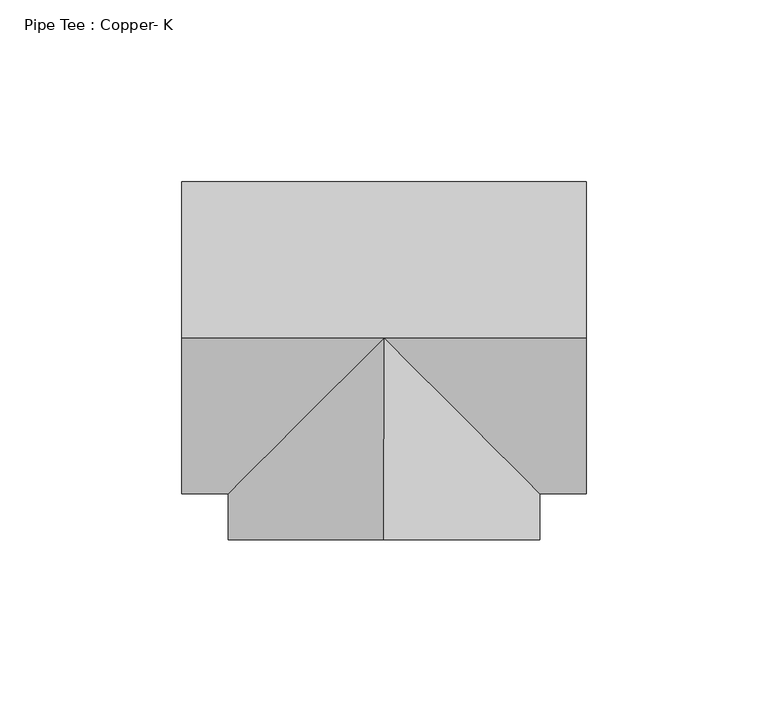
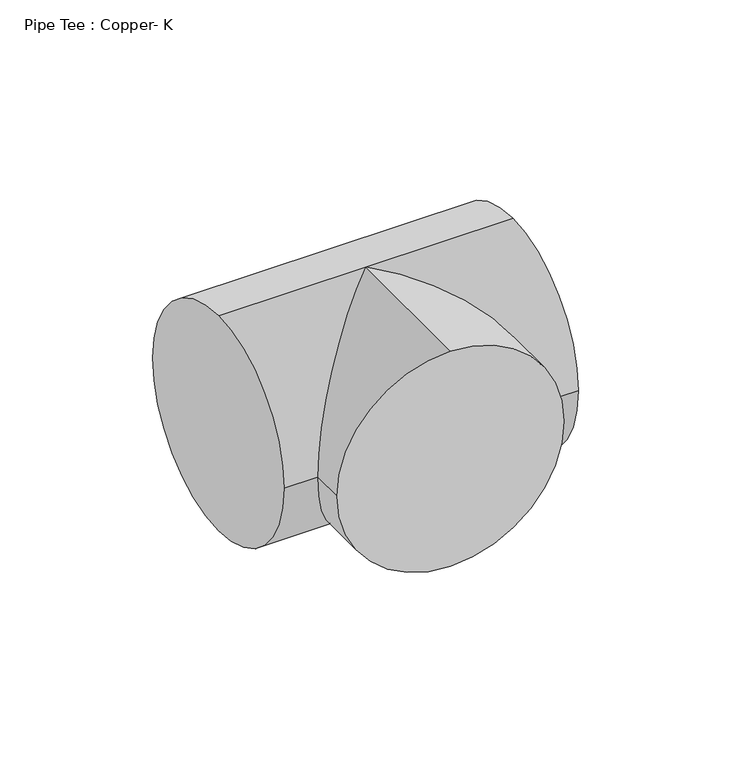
"""IFC4 building model written with IfcOpenShell, lengths in millimetres: pipe fitting geometry, Pipe Tee : Copper- K."""

import ifcopenshell
import ifcopenshell.guid

model = None  # the IFC model being written
_history = None  # IfcOwnerHistory: only IFC2X3 demands one
_inside = {}  # id of a spatial element -> (the spatial element, [elements in it])
_under = {}  # id of a project, library or spatial element -> (it, [spatial elements below it])
_declared = {}  # id of a project -> (the project, [libraries it declares])
_typed = {}  # id of a type object -> (the type object, [elements of that type])
_made_of = {}  # id of a material, layer set ... -> (it, [elements and type objects made of it])


def new_model(schema):
    """Start an empty IFC model of exactly this schema.

    Asked for "IFC4X3", IfcOpenShell would pick the latest addendum, in which some entities
    have other attributes; the version numbers below select the first issue.
    IFC2X3 requires an IfcOwnerHistory on every rooted entity: one is made here for all.
    """
    global model, _history
    if schema == "IFC4X3":
        model = ifcopenshell.file(schema_version=(4, 3, 0, 0))
    else:
        model = ifcopenshell.file(schema=schema)
    _inside.clear()
    _under.clear()
    _declared.clear()
    _typed.clear()
    _made_of.clear()
    _history = None
    if model.schema == "IFC2X3":
        org = make("IfcOrganization", Name="unknown")
        user = make(
            "IfcPersonAndOrganization",
            ThePerson=make("IfcPerson", FamilyName="unknown"),
            TheOrganization=org,
        )
        app = make(
            "IfcApplication",
            ApplicationDeveloper=org,
            Version="unknown",
            ApplicationFullName="unknown",
            ApplicationIdentifier="unknown",
        )
        _history = make(
            "IfcOwnerHistory",
            OwningUser=user,
            OwningApplication=app,
            ChangeAction="ADDED",
            CreationDate=0,
        )
    return model


def make(cls, **values):
    """One entity of the class cls with the attributes given. An attribute that is None is left unset."""
    return model.create_entity(
        cls, **{name: value for name, value in values.items() if value is not None}
    )


def rooted(cls, **values):
    """An entity with a GlobalId (a new one), such as an element, a storey or a relation."""
    return make(cls, GlobalId=ifcopenshell.guid.new(), OwnerHistory=_history, **values)


def si_unit(unit_type, name, prefix=None):
    """IfcSIUnit, for example si_unit("LENGTHUNIT", "METRE", prefix="MILLI")."""
    return make("IfcSIUnit", UnitType=unit_type, Prefix=prefix, Name=name)


def assignment(units):
    """IfcUnitAssignment: the units of a project."""
    return None if units is None else make("IfcUnitAssignment", Units=units)


def point(xyz):
    """IfcCartesianPoint."""
    return None if xyz is None else make("IfcCartesianPoint", Coordinates=xyz)


def direction(xyz):
    """IfcDirection."""
    return None if xyz is None else make("IfcDirection", DirectionRatios=xyz)


def frame(location, z_axis=None, x_axis=None):
    """IfcAxis2Placement3D, a coordinate frame: its origin and axes. An axis left out is left unset."""
    return make(
        "IfcAxis2Placement3D",
        Location=point(location),
        Axis=direction(z_axis),
        RefDirection=direction(x_axis),
    )


def origin():
    """The frame at (0, 0, 0) with its axes left unset."""
    return frame((0.0, 0.0, 0.0))


def place(relative_to, where):
    """IfcLocalPlacement: puts the frame where relative to a parent placement (None: the world)."""
    return make(
        "IfcLocalPlacement", PlacementRelTo=relative_to, RelativePlacement=where
    )


def context(
    kind, dimensions, precision=None, world=None, true_north=None, identifier=None
):
    """IfcGeometricRepresentationContext, for example the 3D "Model" context."""
    return make(
        "IfcGeometricRepresentationContext",
        ContextIdentifier=identifier,
        ContextType=kind,
        CoordinateSpaceDimension=dimensions,
        Precision=precision,
        WorldCoordinateSystem=world,
        TrueNorth=true_north,
    )


def project(units=None, contexts=None):
    """IfcProject with its units and contexts."""
    return rooted(
        "IfcProject",
        Name="project",
        RepresentationContexts=contexts,
        UnitsInContext=assignment(units),
    )


def spatial(cls, under=None, at=None, **own):
    """A site, building, storey or space (cls), placed at a placement, below another one or the project."""
    s = rooted(cls, ObjectPlacement=at, **own)
    if under is not None:
        _under.setdefault(under.id(), (under, []))[1].append(s)
    return s


def circle_curve(where, radius):
    """IfcCircle in the frame where."""
    return make("IfcCircle", Position=where, Radius=radius)


def ellipse_curve(where, semi_axis1, semi_axis2):
    """IfcEllipse in the frame where."""
    return make(
        "IfcEllipse", Position=where, SemiAxis1=semi_axis1, SemiAxis2=semi_axis2
    )


def shape(context_of_items, identifier, shape_type, items):
    """IfcShapeRepresentation: the items that make up one representation, for example the "Body"."""
    return make(
        "IfcShapeRepresentation",
        ContextOfItems=context_of_items,
        RepresentationIdentifier=identifier,
        RepresentationType=shape_type,
        Items=items,
    )


def source(mapping_origin, context_of_items, identifier, shape_type, items):
    """IfcRepresentationMap: a shape defined once, which mapped items show again and again."""
    return make(
        "IfcRepresentationMap",
        MappingOrigin=mapping_origin,
        MappedRepresentation=shape(context_of_items, identifier, shape_type, items),
    )


def transform(
    local_origin,
    x_axis=None,
    y_axis=None,
    z_axis=None,
    scale=None,
    scale2=None,
    scale3=None,
    uniform=True,
):
    """IfcCartesianTransformationOperator3D, or its non-uniform kind. x_axis, y_axis, z_axis: its Axis1, 2, 3."""
    if uniform:
        return make(
            "IfcCartesianTransformationOperator3D",
            Axis1=direction(x_axis),
            Axis2=direction(y_axis),
            LocalOrigin=point(local_origin),
            Scale=scale,
            Axis3=direction(z_axis),
        )
    return make(
        "IfcCartesianTransformationOperator3DnonUniform",
        Axis1=direction(x_axis),
        Axis2=direction(y_axis),
        LocalOrigin=point(local_origin),
        Scale=scale,
        Axis3=direction(z_axis),
        Scale2=scale2,
        Scale3=scale3,
    )


def mapped(mapping_source, mapping_target):
    """IfcMappedItem: shows the shape of a source again, moved by a transform."""
    return make(
        "IfcMappedItem", MappingSource=mapping_source, MappingTarget=mapping_target
    )


def made_of(thing, what):
    """Note that an element or type object is made of a material, layer set ...; save() writes the relation."""
    if what is not None:
        _made_of.setdefault(what.id(), (what, []))[1].append(thing)
    return thing


def element(
    cls,
    number,
    at=None,
    inside=None,
    cuts=None,
    type_object=None,
    material=None,
    context=None,
    identifier="Body",
    shape_type=None,
    held_by="IfcProductDefinitionShape",
    body=None,
    shapes=None,
    **own,
):
    """One element of the class cls, such as IfcWall. Its Tag is "e" and its number.

    at: its placement. inside: the storey or other place that contains it. cuts: it is an
    opening in that element (IfcRelVoidsElement). A single representation is given by context,
    identifier, shape_type and body (its items); several are given by shapes. held_by: the class
    of the entity that holds the representations. save() writes the other relations.
    """
    e = rooted(cls, Tag="e%d" % number, ObjectPlacement=at, **own)
    if body is not None:
        shapes = [shape(context, identifier, shape_type, body)]
    if shapes is not None:
        e.Representation = make(held_by, Representations=shapes)
    if inside is not None:
        _inside.setdefault(inside.id(), (inside, []))[1].append(e)
    if cuts is not None:
        rooted(
            "IfcRelVoidsElement", RelatingBuildingElement=cuts, RelatedOpeningElement=e
        )
    if type_object is not None:
        _typed.setdefault(type_object.id(), (type_object, []))[1].append(e)
    return made_of(e, material)


def aggregate(whole, parts):
    """IfcRelAggregates: a whole, such as a stair, and the parts it consists of."""
    return rooted("IfcRelAggregates", RelatingObject=whole, RelatedObjects=parts)


def save(model, path):
    """Write the relations noted so far, then the file.

    IfcRelAggregates (storeys below a building ...), IfcRelContainedInSpatialStructure (elements
    in a storey), IfcRelDefinesByType, IfcRelAssociatesMaterial and IfcRelDeclares: one each for
    every whole, place, type object, material and project.
    """
    for whole, parts in _under.values():
        aggregate(whole, parts)
    for where, things in _inside.values():
        rooted(
            "IfcRelContainedInSpatialStructure",
            RelatedElements=things,
            RelatingStructure=where,
        )
    for kind, things in _typed.values():
        rooted("IfcRelDefinesByType", RelatedObjects=things, RelatingType=kind)
    for what, things in _made_of.values():
        rooted("IfcRelAssociatesMaterial", RelatedObjects=things, RelatingMaterial=what)
    for by, libraries in _declared.values():
        rooted("IfcRelDeclares", RelatingContext=by, RelatedDefinitions=libraries)
    model.write(path)


def plane_surface(at):
    """IfcPlane: the flat surface through the origin of the frame at, square to its z axis."""
    return make("IfcPlane", Position=at)


def cylinder_surface(at, radius):
    """IfcCylindricalSurface: all points at the distance radius from the z axis of the frame at."""
    return make("IfcCylindricalSurface", Position=at, Radius=radius)


def advanced_brep(points, edges, surfaces, faces):
    """IfcAdvancedBrep: a solid bounded by faces that lie on surfaces and meet in shared edges.

    An edge is (start, end): straight between two places in points (the first is 0);
    or (start, end, curve); or (start, end, curve, False) where it runs against its curve.
    A face is (place in surfaces, loops), or (place, loops, False) where it looks against
    its surface's normal. A loop lists edges by number (the first is 1), with a minus sign
    where the edge is run from its end to its start. The first loop is the outer one.
    """
    corners = [point(p) for p in points]
    vertices = [make("IfcVertexPoint", VertexGeometry=c) for c in corners]
    made = []
    for start, end, *more in edges:
        made.append(
            make(
                "IfcEdgeCurve",
                EdgeStart=vertices[start],
                EdgeEnd=vertices[end],
                EdgeGeometry=more[0] if more else make("IfcPolyline", Points=[corners[start], corners[end]]),
                SameSense=more[1] if len(more) > 1 else True,
            )
        )
    hull = []
    for where, loops, *sense in faces:
        bounds = []
        for j, loop in enumerate(loops):
            ring = [make("IfcOrientedEdge", EdgeElement=made[abs(k) - 1], Orientation=k > 0) for k in loop]
            bounds.append(
                make(
                    "IfcFaceOuterBound" if j == 0 else "IfcFaceBound",
                    Bound=make("IfcEdgeLoop", EdgeList=ring),
                    Orientation=True,
                )
            )
        hull.append(make("IfcAdvancedFace", Bounds=bounds, FaceSurface=surfaces[where], SameSense=sense[0] if sense else True))
    return make("IfcAdvancedBrep", Outer=make("IfcClosedShell", CfsFaces=hull))


def pipe_tee_copper_k_9e82dede(model_context):
    return source(origin(), model_context, "Body", "AdvancedBrep", [
        advanced_brep(
        [(-55.5625, 0.0, 42.8625), (-55.5625, 42.8625, 0.0), (-55.5625, 0.0, -42.8625), (-55.5625, -42.8625, 0.0), (55.5625, 0.0, 42.8625), (55.5625, -42.8625, 0.0), (55.5625, 0.0, -42.8625), (55.5625, 42.8625, 0.0), (0.0, 0.0, 42.8625), (0.0, 0.0, -42.8625), (-42.8625113, -42.8625, 0.0), (42.8624887, -42.8625, 0.0), (-1.46e-05, -55.5625, 42.8625), (-42.8625146, -55.5624887, 0.0), (-1.46e-05, -55.5625, -42.8625), (42.8624854, -55.5625113, 0.0)],
        [
            (0, 1, circle_curve(frame((-55.5625, 0.0, 0.0), z_axis=(-1.0, 0.0, 0.0), x_axis=(0.0, 1.0, 0.0)), 42.8625)),
            (1, 2, circle_curve(frame((-55.5625, 0.0, 0.0), z_axis=(-1.0, 0.0, 0.0), x_axis=(0.0, 1.0, 0.0)), 42.8625)),
            (2, 3, circle_curve(frame((-55.5625, 0.0, 0.0), z_axis=(-1.0, 0.0, 0.0), x_axis=(0.0, 1.0, 0.0)), 42.8625)),
            (3, 0, circle_curve(frame((-55.5625, 0.0, 0.0), z_axis=(-1.0, 0.0, 0.0), x_axis=(0.0, 1.0, 0.0)), 42.8625)),
            (4, 5, circle_curve(frame((55.5625, 0.0, 0.0), z_axis=(1.0, 0.0, 0.0), x_axis=(0.0, 1.0, 0.0)), 42.8625)),
            (5, 6, circle_curve(frame((55.5625, 0.0, 0.0), z_axis=(1.0, 0.0, 0.0), x_axis=(0.0, 1.0, 0.0)), 42.8625)),
            (6, 7, circle_curve(frame((55.5625, 0.0, 0.0), z_axis=(1.0, 0.0, 0.0), x_axis=(0.0, 1.0, 0.0)), 42.8625)),
            (7, 4, circle_curve(frame((55.5625, 0.0, 0.0), z_axis=(1.0, 0.0, 0.0), x_axis=(0.0, 1.0, 0.0)), 42.8625)),
            (0, 8),
            (8, 4),
            (7, 1),
            (6, 9),
            (9, 2),
            (9, 10, ellipse_curve(frame((0.0, 0.0, 0.0), z_axis=(-0.7071066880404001, 0.7071068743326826, 0.0), x_axis=(-0.7071068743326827, -0.7071066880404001, 0.0)), 60.6167368, 42.8625)),
            (10, 3),
            (5, 11),
            (11, 9, ellipse_curve(frame((0.0, 0.0, 0.0), z_axis=(0.7071068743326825, 0.7071066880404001, 0.0), x_axis=(-0.7071066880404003, 0.7071068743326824, 0.0)), 60.6167208, 42.8625)),
            (10, 8, ellipse_curve(frame((0.0, 0.0, 0.0), z_axis=(-0.7071066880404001, 0.7071068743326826, 0.0), x_axis=(-0.7071068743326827, -0.7071066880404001, 0.0)), 60.6167368, 42.8625)),
            (8, 11, ellipse_curve(frame((0.0, 0.0, 0.0), z_axis=(0.7071068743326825, 0.7071066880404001, 0.0), x_axis=(-0.7071066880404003, 0.7071068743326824, 0.0)), 60.6167208, 42.8625)),
            (12, 13, circle_curve(frame((-1.46e-05, -55.5625, 0.0), z_axis=(-2.634570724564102e-07, -0.9999999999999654, 0.0), x_axis=(0.9999999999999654, -2.634570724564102e-07, 0.0)), 42.8625)),
            (13, 14, circle_curve(frame((-1.46e-05, -55.5625, 0.0), z_axis=(-2.634570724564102e-07, -0.9999999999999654, 0.0), x_axis=(0.9999999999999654, -2.634570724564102e-07, 0.0)), 42.8625)),
            (14, 15, circle_curve(frame((-1.46e-05, -55.5625, 0.0), z_axis=(-2.634570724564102e-07, -0.9999999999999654, 0.0), x_axis=(0.9999999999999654, -2.634570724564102e-07, 0.0)), 42.8625)),
            (15, 12, circle_curve(frame((-1.46e-05, -55.5625, 0.0), z_axis=(-2.634570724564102e-07, -0.9999999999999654, 0.0), x_axis=(0.9999999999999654, -2.634570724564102e-07, 0.0)), 42.8625)),
            (15, 11),
            (8, 12),
            (14, 9),
            (13, 10),
        ],
        [
            plane_surface(frame((-55.5625, 0.0, 0.0), z_axis=(-1.0, 0.0, 0.0), x_axis=(0.0, 0.0, 1.0))),
            plane_surface(frame((55.5625, 0.0, 0.0), z_axis=(1.0, 0.0, 0.0), x_axis=(0.0, 0.0, 1.0))),
            cylinder_surface(frame((-55.5625, 0.0, 0.0), z_axis=(-1.0, 0.0, 0.0), x_axis=(0.0, 1.0, 0.0)), 42.8625),
            plane_surface(frame((-1.46e-05, -55.5625, 0.0), z_axis=(-2.634570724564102e-07, -0.9999999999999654, 0.0), x_axis=(0.0, 0.0, 1.0))),
            cylinder_surface(frame((0.0, 0.0, 0.0), z_axis=(2.634570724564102e-07, 0.9999999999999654, 0.0), x_axis=(0.9999999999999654, -2.634570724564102e-07, 0.0)), 42.8625),
        ],
        [
            (0, [[1, 2, 3, 4]]),
            (1, [[5, 6, 7, 8]]),
            (2, [[-1, 9, 10, -8, 11]]),
            (2, [[-2, -11, -7, 12, 13]]),
            (2, [[-3, -13, 14, 15]]),
            (2, [[-6, 16, 17, -12]]),
            (2, [[-4, -15, 18, -9]]),
            (2, [[-5, -10, 19, -16]]),
            (3, [[20, 21, 22, 23]]),
            (4, [[-23, 24, -19, 25]]),
            (4, [[-22, 26, -17, -24]]),
            (4, [[-21, 27, -14, -26]]),
            (4, [[-20, -25, -18, -27]]),
        ],
    ),
        advanced_brep(
        [(-55.5625, 0.0, 42.8625), (-55.5625, 42.8625, 0.0), (-55.5625, 0.0, -42.8625), (-55.5625, -42.8625, 0.0), (55.5625, 0.0, 42.8625), (55.5625, -42.8625, 0.0), (55.5625, 0.0, -42.8625), (55.5625, 42.8625, 0.0), (0.0, 0.0, 42.8625), (0.0, 0.0, -42.8625), (-42.8625113, -42.8625, 0.0), (42.8624887, -42.8625, 0.0), (-1.46e-05, -55.5625, 42.8625), (-42.8625146, -55.5624887, 0.0), (-1.46e-05, -55.5625, -42.8625), (42.8624854, -55.5625113, 0.0)],
        [
            (0, 1, circle_curve(frame((-55.5625, 0.0, 0.0), z_axis=(-1.0, 0.0, 0.0), x_axis=(0.0, 1.0, 0.0)), 42.8625)),
            (1, 2, circle_curve(frame((-55.5625, 0.0, 0.0), z_axis=(-1.0, 0.0, 0.0), x_axis=(0.0, 1.0, 0.0)), 42.8625)),
            (2, 3, circle_curve(frame((-55.5625, 0.0, 0.0), z_axis=(-1.0, 0.0, 0.0), x_axis=(0.0, 1.0, 0.0)), 42.8625)),
            (3, 0, circle_curve(frame((-55.5625, 0.0, 0.0), z_axis=(-1.0, 0.0, 0.0), x_axis=(0.0, 1.0, 0.0)), 42.8625)),
            (4, 5, circle_curve(frame((55.5625, 0.0, 0.0), z_axis=(1.0, 0.0, 0.0), x_axis=(0.0, 1.0, 0.0)), 42.8625)),
            (5, 6, circle_curve(frame((55.5625, 0.0, 0.0), z_axis=(1.0, 0.0, 0.0), x_axis=(0.0, 1.0, 0.0)), 42.8625)),
            (6, 7, circle_curve(frame((55.5625, 0.0, 0.0), z_axis=(1.0, 0.0, 0.0), x_axis=(0.0, 1.0, 0.0)), 42.8625)),
            (7, 4, circle_curve(frame((55.5625, 0.0, 0.0), z_axis=(1.0, 0.0, 0.0), x_axis=(0.0, 1.0, 0.0)), 42.8625)),
            (0, 8),
            (8, 4),
            (7, 1),
            (6, 9),
            (9, 2),
            (9, 10, ellipse_curve(frame((0.0, 0.0, 0.0), z_axis=(-0.7071066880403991, 0.7071068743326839, 0.0), x_axis=(-0.7071068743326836, -0.7071066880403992, 0.0)), 60.6167368, 42.8625)),
            (10, 3),
            (5, 11),
            (11, 9, ellipse_curve(frame((0.0, 0.0, 0.0), z_axis=(0.7071068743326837, 0.7071066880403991, 0.0), x_axis=(-0.707106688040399, 0.7071068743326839, 0.0)), 60.6167208, 42.8625)),
            (10, 8, ellipse_curve(frame((0.0, 0.0, 0.0), z_axis=(-0.7071066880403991, 0.7071068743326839, 0.0), x_axis=(-0.7071068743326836, -0.7071066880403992, 0.0)), 60.6167368, 42.8625)),
            (8, 11, ellipse_curve(frame((0.0, 0.0, 0.0), z_axis=(0.7071068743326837, 0.7071066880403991, 0.0), x_axis=(-0.707106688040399, 0.7071068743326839, 0.0)), 60.6167208, 42.8625)),
            (12, 13, circle_curve(frame((-1.46e-05, -55.5625, 0.0), z_axis=(-2.634570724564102e-07, -0.9999999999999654, 0.0), x_axis=(0.9999999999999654, -2.634570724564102e-07, 0.0)), 42.8625)),
            (13, 14, circle_curve(frame((-1.46e-05, -55.5625, 0.0), z_axis=(-2.634570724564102e-07, -0.9999999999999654, 0.0), x_axis=(0.9999999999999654, -2.634570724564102e-07, 0.0)), 42.8625)),
            (14, 15, circle_curve(frame((-1.46e-05, -55.5625, 0.0), z_axis=(-2.634570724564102e-07, -0.9999999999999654, 0.0), x_axis=(0.9999999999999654, -2.634570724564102e-07, 0.0)), 42.8625)),
            (15, 12, circle_curve(frame((-1.46e-05, -55.5625, 0.0), z_axis=(-2.634570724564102e-07, -0.9999999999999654, 0.0), x_axis=(0.9999999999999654, -2.634570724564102e-07, 0.0)), 42.8625)),
            (15, 11),
            (8, 12),
            (14, 9),
            (13, 10),
        ],
        [
            plane_surface(frame((-55.5625, 0.0, 0.0), z_axis=(-1.0, 0.0, 0.0), x_axis=(0.0, 0.0, 1.0))),
            plane_surface(frame((55.5625, 0.0, 0.0), z_axis=(1.0, 0.0, 0.0), x_axis=(0.0, 0.0, 1.0))),
            cylinder_surface(frame((-55.5625, 0.0, 0.0), z_axis=(-1.0, 0.0, 0.0), x_axis=(0.0, 1.0, 0.0)), 42.8625),
            plane_surface(frame((-1.46e-05, -55.5625, 0.0), z_axis=(-2.634570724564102e-07, -0.9999999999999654, 0.0), x_axis=(0.0, 0.0, 1.0))),
            cylinder_surface(frame((0.0, 0.0, 0.0), z_axis=(2.634570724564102e-07, 0.9999999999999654, 0.0), x_axis=(0.9999999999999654, -2.634570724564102e-07, 0.0)), 42.8625),
        ],
        [
            (0, [[1, 2, 3, 4]]),
            (1, [[5, 6, 7, 8]]),
            (2, [[-1, 9, 10, -8, 11]]),
            (2, [[-2, -11, -7, 12, 13]]),
            (2, [[-3, -13, 14, 15]]),
            (2, [[-6, 16, 17, -12]]),
            (2, [[-4, -15, 18, -9]]),
            (2, [[-5, -10, 19, -16]]),
            (3, [[20, 21, 22, 23]]),
            (4, [[-23, 24, -19, 25]]),
            (4, [[-22, 26, -17, -24]]),
            (4, [[-21, 27, -14, -26]]),
            (4, [[-20, -25, -18, -27]]),
        ],
    ),
    ])


if __name__ == "__main__":
    model = new_model("IFC4")
    model_context = context("Model", 3, world=origin())
    ifc_project = project(units=[si_unit("LENGTHUNIT", "METRE", prefix="MILLI")], contexts=[model_context])
    site = spatial("IfcSite", under=ifc_project)
    building = spatial("IfcBuilding", under=site)
    placement = place(None, origin())
    pipe_tee_copper_k_shape = pipe_tee_copper_k_9e82dede(model_context)
    element("IfcPipeFitting", 1, ObjectType="Pipe Tee : Copper- K", at=placement, inside=building, context=model_context, shape_type="MappedRepresentation", body=[
        mapped(pipe_tee_copper_k_shape, transform((0.0, 0.0, 0.0), x_axis=(1.0, 0.0, 0.0), y_axis=(0.0, 1.0, 0.0), z_axis=(0.0, 0.0, 1.0))),
    ])
    save(model, "model.ifc")
